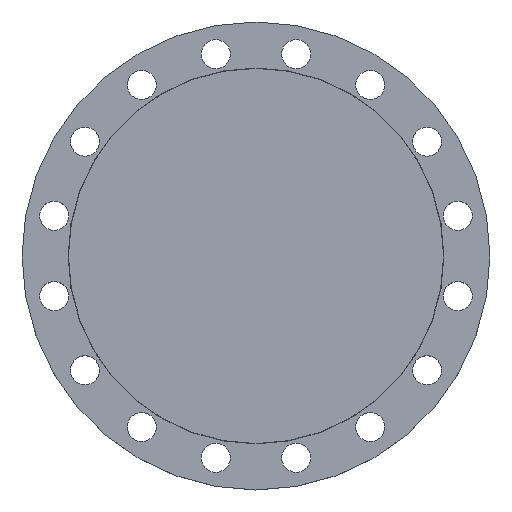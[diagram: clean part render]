
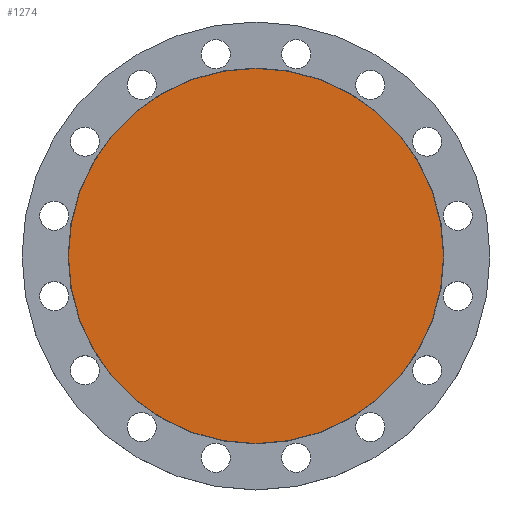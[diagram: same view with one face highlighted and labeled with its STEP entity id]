
A CAD part, top view. The second image highlights one B-rep face of the part: STEP entity #1274.
In plain terms, the highlighted planar face has unit normal (0, 0, 1).
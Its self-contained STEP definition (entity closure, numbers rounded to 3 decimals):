
#200 = CARTESIAN_POINT ( 'NONE',  ( -232.5, 0., 0. ) ) ;
#208 = CARTESIAN_POINT ( 'NONE',  ( 232.5, 0., 0. ) ) ;
#270 = DIRECTION ( 'NONE',  ( -1., 0., 0. ) ) ;
#271 = DIRECTION ( 'NONE',  ( 0., 0., -1. ) ) ;
#272 = CARTESIAN_POINT ( 'NONE',  ( 0., 0., 0. ) ) ;
#340 = DIRECTION ( 'NONE',  ( 1., 0., 0. ) ) ;
#341 = DIRECTION ( 'NONE',  ( 0., 0., 1. ) ) ;
#342 = CARTESIAN_POINT ( 'NONE',  ( 0., 0., 0. ) ) ;
#344 = PLANE ( 'NONE',  #1255 ) ;
#345 = FACE_OUTER_BOUND ( 'NONE', #1536, .T. ) ;
#508 = CIRCLE ( 'NONE', #509, 232.5 ) ;
#509 = AXIS2_PLACEMENT_3D ( 'NONE', #815, #814, #813 ) ;
#673 = EDGE_CURVE ( 'NONE', #1500, #1525, #508, .T. ) ;
#813 = DIRECTION ( 'NONE',  ( -1., 0., 0. ) ) ;
#814 = DIRECTION ( 'NONE',  ( 0., 0., -1. ) ) ;
#815 = CARTESIAN_POINT ( 'NONE',  ( 0., 0., 0. ) ) ;
#1251 = AXIS2_PLACEMENT_3D ( 'NONE', #272, #271, #270 ) ;
#1255 = AXIS2_PLACEMENT_3D ( 'NONE', #342, #341, #340 ) ;
#1274 = ADVANCED_FACE ( 'NONE', ( #345 ), #344, .T. ) ;
#1364 = EDGE_CURVE ( 'NONE', #1525, #1500, #1617, .T. ) ;
#1500 = VERTEX_POINT ( 'NONE', #208 ) ;
#1508 = ORIENTED_EDGE ( 'NONE', *, *, #1364, .F. ) ;
#1512 = ORIENTED_EDGE ( 'NONE', *, *, #673, .F. ) ;
#1525 = VERTEX_POINT ( 'NONE', #200 ) ;
#1536 = EDGE_LOOP ( 'NONE', ( #1508, #1512 ) ) ;
#1617 = CIRCLE ( 'NONE', #1251, 232.5 ) ;
